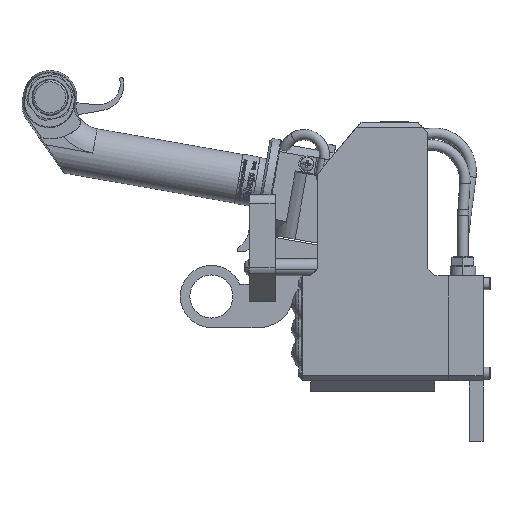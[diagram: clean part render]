
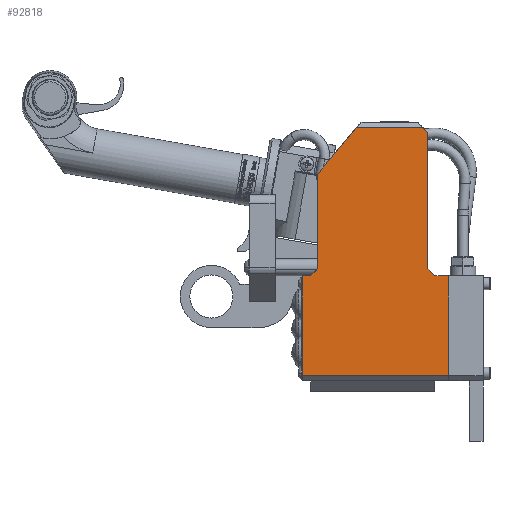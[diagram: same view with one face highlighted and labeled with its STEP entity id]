
A CAD part, left-side view. The second image highlights one B-rep face of the part: STEP entity #92818.
In plain terms, the highlighted planar face has unit normal (-1, 0, 0).
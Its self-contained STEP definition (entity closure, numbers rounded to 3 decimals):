
#2872 = VERTEX_POINT ( 'NONE', #42874 ) ;
#3060 = ORIENTED_EDGE ( 'NONE', *, *, #8973, .T. ) ;
#3704 = DIRECTION ( 'NONE',  ( 0., 0., 1. ) ) ;
#6342 = VECTOR ( 'NONE', #85912, 1000. ) ;
#6573 = VECTOR ( 'NONE', #94687, 1000. ) ;
#6656 = DIRECTION ( 'NONE',  ( 0., 0.707, -0.707 ) ) ;
#8507 = CARTESIAN_POINT ( 'NONE',  ( -37.5, -44., -11. ) ) ;
#8973 = EDGE_CURVE ( 'NONE', #37468, #58918, #22239, .T. ) ;
#10086 = CARTESIAN_POINT ( 'NONE',  ( -37.5, -32., -7. ) ) ;
#10828 = VERTEX_POINT ( 'NONE', #114943 ) ;
#11646 = ORIENTED_EDGE ( 'NONE', *, *, #35942, .T. ) ;
#14410 = CARTESIAN_POINT ( 'NONE',  ( -37.5, 9.344, 75. ) ) ;
#14725 = CARTESIAN_POINT ( 'NONE',  ( -37.5, 32., 48. ) ) ;
#16771 = CARTESIAN_POINT ( 'NONE',  ( -37.5, 36., -11. ) ) ;
#19863 = DIRECTION ( 'NONE',  ( 0., 0., -1. ) ) ;
#19905 = DIRECTION ( 'NONE',  ( 0., 0.707, 0.707 ) ) ;
#22239 = LINE ( 'NONE', #41025, #97090 ) ;
#25873 = EDGE_CURVE ( 'NONE', #96941, #86049, #105033, .T. ) ;
#27566 = ORIENTED_EDGE ( 'NONE', *, *, #110040, .T. ) ;
#29992 = FACE_OUTER_BOUND ( 'NONE', #87477, .T. ) ;
#30073 = DIRECTION ( 'NONE',  ( 1., 0., 0. ) ) ;
#30080 = VECTOR ( 'NONE', #30485, 1000. ) ;
#30485 = DIRECTION ( 'NONE',  ( 0., 0.707, 0.707 ) ) ;
#31230 = LINE ( 'NONE', #58819, #6342 ) ;
#32530 = CARTESIAN_POINT ( 'NONE',  ( -37.5, -32., 72. ) ) ;
#35942 = EDGE_CURVE ( 'NONE', #106845, #2872, #93910, .T. ) ;
#36308 = ORIENTED_EDGE ( 'NONE', *, *, #106439, .T. ) ;
#37468 = VERTEX_POINT ( 'NONE', #73172 ) ;
#38664 = ORIENTED_EDGE ( 'NONE', *, *, #25873, .T. ) ;
#40418 = LINE ( 'NONE', #101814, #111042 ) ;
#40556 = AXIS2_PLACEMENT_3D ( 'NONE', #85876, #30073, #19863 ) ;
#40708 = CARTESIAN_POINT ( 'NONE',  ( -37.5, 41., -11. ) ) ;
#41025 = CARTESIAN_POINT ( 'NONE',  ( -37.5, -44., -11. ) ) ;
#41386 = CARTESIAN_POINT ( 'NONE',  ( -37.5, -36., -11. ) ) ;
#41800 = DIRECTION ( 'NONE',  ( 0., -1., 0. ) ) ;
#41908 = ORIENTED_EDGE ( 'NONE', *, *, #72447, .F. ) ;
#42874 = CARTESIAN_POINT ( 'NONE',  ( -37.5, 32., -7. ) ) ;
#44166 = VERTEX_POINT ( 'NONE', #40708 ) ;
#47494 = CARTESIAN_POINT ( 'NONE',  ( -37.5, 41., -11. ) ) ;
#47566 = ORIENTED_EDGE ( 'NONE', *, *, #56333, .T. ) ;
#48376 = VECTOR ( 'NONE', #111832, 1000. ) ;
#48502 = VECTOR ( 'NONE', #113342, 1000. ) ;
#48540 = LINE ( 'NONE', #47494, #70638 ) ;
#48622 = LINE ( 'NONE', #16771, #79487 ) ;
#49540 = VECTOR ( 'NONE', #105463, 1000. ) ;
#51474 = ORIENTED_EDGE ( 'NONE', *, *, #64887, .T. ) ;
#52145 = CARTESIAN_POINT ( 'NONE',  ( -37.5, -36., -11. ) ) ;
#55694 = EDGE_CURVE ( 'NONE', #44166, #116367, #48540, .T. ) ;
#56333 = EDGE_CURVE ( 'NONE', #106225, #10828, #91081, .T. ) ;
#57149 = PLANE ( 'NONE',  #40556 ) ;
#58377 = CARTESIAN_POINT ( 'NONE',  ( -37.5, -26., 78. ) ) ;
#58819 = CARTESIAN_POINT ( 'NONE',  ( -37.5, 6.827, 78. ) ) ;
#58918 = VERTEX_POINT ( 'NONE', #8507 ) ;
#60673 = CARTESIAN_POINT ( 'NONE',  ( -37.5, 36., -11. ) ) ;
#60955 = LINE ( 'NONE', #41386, #94678 ) ;
#64887 = EDGE_CURVE ( 'NONE', #100939, #106845, #31230, .T. ) ;
#70529 = CARTESIAN_POINT ( 'NONE',  ( -37.5, 41., -69. ) ) ;
#70638 = VECTOR ( 'NONE', #114494, 1000. ) ;
#72447 = EDGE_CURVE ( 'NONE', #100939, #86049, #87733, .T. ) ;
#73172 = CARTESIAN_POINT ( 'NONE',  ( -37.5, -44., -69. ) ) ;
#73449 = VECTOR ( 'NONE', #19905, 1000. ) ;
#73678 = CARTESIAN_POINT ( 'NONE',  ( -37.5, -29., 75. ) ) ;
#74016 = EDGE_CURVE ( 'NONE', #10828, #96941, #110921, .T. ) ;
#76643 = CARTESIAN_POINT ( 'NONE',  ( -37.5, -32., 72. ) ) ;
#79487 = VECTOR ( 'NONE', #118620, 1000. ) ;
#85876 = CARTESIAN_POINT ( 'NONE',  ( -37.5, 36., -11. ) ) ;
#85912 = DIRECTION ( 'NONE',  ( 0., 0.643, -0.766 ) ) ;
#86049 = VERTEX_POINT ( 'NONE', #73678 ) ;
#87477 = EDGE_LOOP ( 'NONE', ( #105314, #120886, #3060, #99897, #47566, #93646, #38664, #41908, #51474, #11646, #36308, #27566 ) ) ;
#87733 = LINE ( 'NONE', #96770, #49540 ) ;
#91081 = LINE ( 'NONE', #10086, #73449 ) ;
#91231 = CARTESIAN_POINT ( 'NONE',  ( -37.5, 32., 48. ) ) ;
#92818 = ADVANCED_FACE ( 'NONE', ( #29992 ), #57149, .F. ) ;
#93646 = ORIENTED_EDGE ( 'NONE', *, *, #74016, .T. ) ;
#93910 = LINE ( 'NONE', #91231, #48376 ) ;
#94678 = VECTOR ( 'NONE', #41800, 1000. ) ;
#94687 = DIRECTION ( 'NONE',  ( 0., 0., 1. ) ) ;
#95748 = EDGE_CURVE ( 'NONE', #37468, #116367, #101459, .T. ) ;
#96770 = CARTESIAN_POINT ( 'NONE',  ( -37.5, 37., 75. ) ) ;
#96941 = VERTEX_POINT ( 'NONE', #32530 ) ;
#97090 = VECTOR ( 'NONE', #3704, 1000. ) ;
#99897 = ORIENTED_EDGE ( 'NONE', *, *, #104494, .F. ) ;
#100939 = VERTEX_POINT ( 'NONE', #14410 ) ;
#101459 = LINE ( 'NONE', #114568, #48502 ) ;
#101814 = CARTESIAN_POINT ( 'NONE',  ( -37.5, 32., -7. ) ) ;
#104494 = EDGE_CURVE ( 'NONE', #106225, #58918, #60955, .T. ) ;
#105033 = LINE ( 'NONE', #58377, #30080 ) ;
#105314 = ORIENTED_EDGE ( 'NONE', *, *, #55694, .T. ) ;
#105463 = DIRECTION ( 'NONE',  ( 0., -1., 0. ) ) ;
#106225 = VERTEX_POINT ( 'NONE', #52145 ) ;
#106439 = EDGE_CURVE ( 'NONE', #2872, #118232, #40418, .T. ) ;
#106845 = VERTEX_POINT ( 'NONE', #14725 ) ;
#110040 = EDGE_CURVE ( 'NONE', #118232, #44166, #48622, .T. ) ;
#110921 = LINE ( 'NONE', #76643, #6573 ) ;
#111042 = VECTOR ( 'NONE', #6656, 1000. ) ;
#111832 = DIRECTION ( 'NONE',  ( 0., 0., -1. ) ) ;
#113342 = DIRECTION ( 'NONE',  ( 0., 1., 0. ) ) ;
#114494 = DIRECTION ( 'NONE',  ( 0., 0., -1. ) ) ;
#114568 = CARTESIAN_POINT ( 'NONE',  ( -37.5, 36., -69. ) ) ;
#114943 = CARTESIAN_POINT ( 'NONE',  ( -37.5, -32., -7. ) ) ;
#116367 = VERTEX_POINT ( 'NONE', #70529 ) ;
#118232 = VERTEX_POINT ( 'NONE', #60673 ) ;
#118620 = DIRECTION ( 'NONE',  ( 0., 1., 0. ) ) ;
#120886 = ORIENTED_EDGE ( 'NONE', *, *, #95748, .F. ) ;
